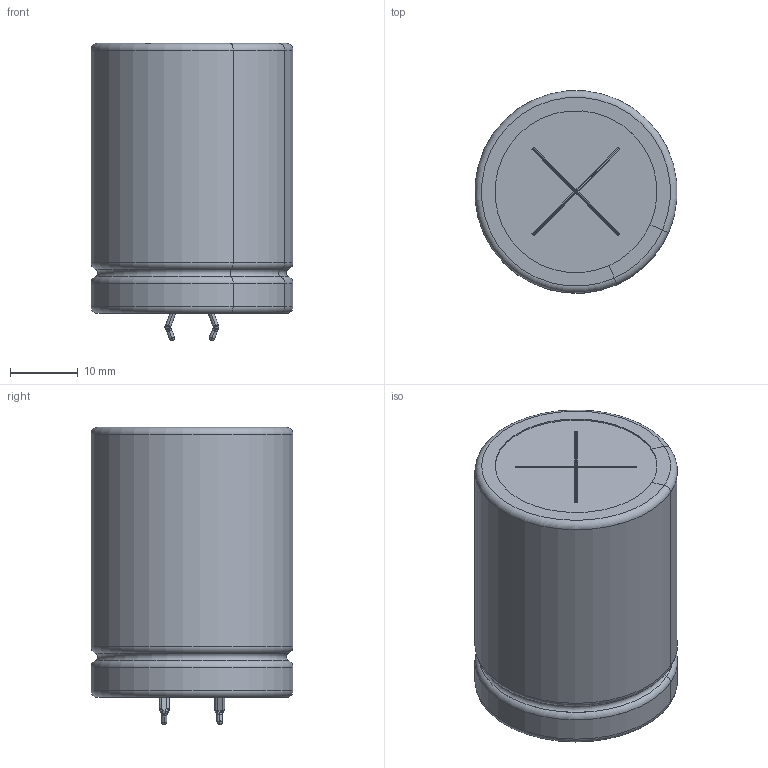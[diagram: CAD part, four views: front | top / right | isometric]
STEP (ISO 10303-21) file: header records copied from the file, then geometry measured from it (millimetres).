
FILE_DESCRIPTION(/* description */ (''),/* implementation_level */ '2;1');
FILE_NAME(/* name */ '30x40_Snap.stp',/* time_stamp */ '2017-09-11T16:02:38+09:00',/* author */ (''),/* organization */ (''),/* preprocessor_version */ 'ST-DEVELOPER v16',/* originating_system */ 'SIEMENS PLM Software NX 11.0',/* authorisation */ '');
FILE_SCHEMA (('AUTOMOTIVE_DESIGN { 1 0 10303 214 3 1 1 1 }'));
Length unit declared in the file: millimetre
Products named in the file (1): 30x40_Snap_0
Bounding box: 29.91 x 29.91 x 44.02 mm (x, y, z)
Volume: 27940.9 mm3; surface area: 13719.9 mm2
Topology: 5 solids, 5 shells, 208 faces, 523 edges, 310 vertices
Faces by surface type: cylinder 76, plane 75, torus 25, sphere 20, bspline 12
Full cylindrical faces by diameter (mm): 4 x2, 29.6 x2
Entity records: 6789 total; most frequent: CARTESIAN_POINT 1265, DIRECTION 1128, ORIENTED_EDGE 988, EDGE_CURVE 494, AXIS2_PLACEMENT_3D 437, VERTEX_POINT 310, LINE 254, VECTOR 254
